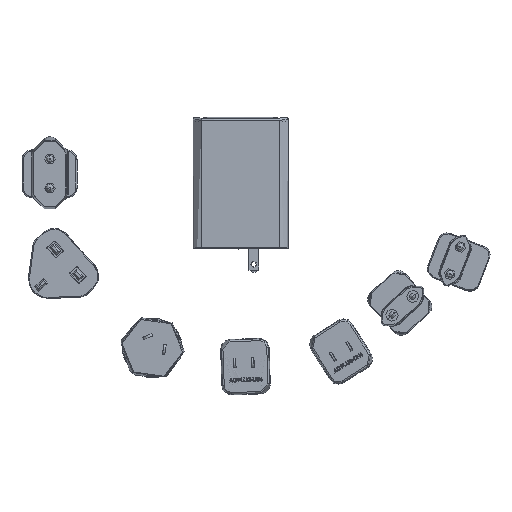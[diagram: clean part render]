
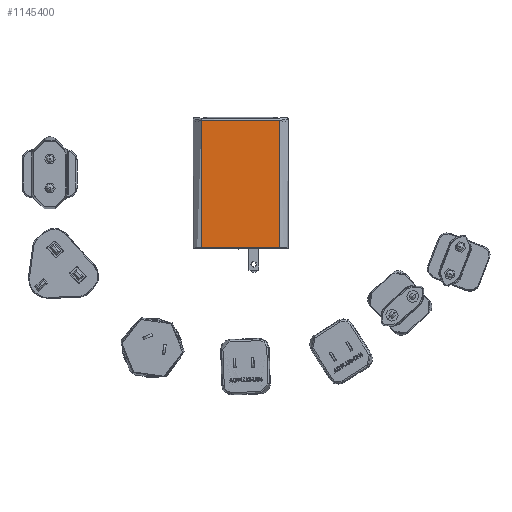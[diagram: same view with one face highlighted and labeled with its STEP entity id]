
A CAD part, top view. The second image highlights one B-rep face of the part: STEP entity #1145400.
In plain terms, the highlighted planar face has unit normal (0, 0, 1).
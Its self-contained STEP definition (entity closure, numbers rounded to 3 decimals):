
#1125800=CARTESIAN_POINT('',(26.285,64.55,21.101));
#1125810=VERTEX_POINT('',#1125800);
#1125990=CARTESIAN_POINT('',(-24.715,64.55,21.101));
#1126000=VERTEX_POINT('',#1125990);
#1126030=CARTESIAN_POINT('',(26.285,64.55,21.101));
#1126040=DIRECTION('',(-1.,0.,0.));
#1126050=VECTOR('',#1126040,1.);
#1126060=LINE('',#1126030,#1126050);
#1126070=EDGE_CURVE('',#1125810,#1126000,#1126060,.T.);
#1126870=CARTESIAN_POINT('',(26.285,147.683,
21.101));
#1126880=DIRECTION('',(0.,-1.,0.));
#1126890=VECTOR('',#1126880,1.);
#1126900=LINE('',#1126870,#1126890);
#1126910=CARTESIAN_POINT('',(26.285,147.683,
21.101));
#1126920=VERTEX_POINT('',#1126910);
#1126930=EDGE_CURVE('',#1126920,#1125810,#1126900,.T.);
#1145050=CARTESIAN_POINT('',(-24.715,147.683,
21.101));
#1145060=DIRECTION('',(1.,0.,0.));
#1145070=VECTOR('',#1145060,1.);
#1145080=LINE('',#1145050,#1145070);
#1145090=CARTESIAN_POINT('',(-24.715,147.683,
21.101));
#1145100=VERTEX_POINT('',#1145090);
#1145110=EDGE_CURVE('',#1145100,#1126920,#1145080,.T.);
#1145240=CARTESIAN_POINT('',(0.785,108.,21.101));
#1145250=DIRECTION('',(0.,0.,-1.));
#1145260=DIRECTION('',(0.,1.,0.));
#1145270=AXIS2_PLACEMENT_3D('',#1145240,#1145250,#1145260);
#1145280=PLANE('',#1145270);
#1145290=CARTESIAN_POINT('',(-24.715,64.55,21.101));
#1145300=DIRECTION('',(0.,1.,0.));
#1145310=VECTOR('',#1145300,1.);
#1145320=LINE('',#1145290,#1145310);
#1145330=EDGE_CURVE('',#1126000,#1145100,#1145320,.T.);
#1145340=ORIENTED_EDGE('',*,*,#1145330,.F.);
#1145350=ORIENTED_EDGE('',*,*,#1145110,.F.);
#1145360=ORIENTED_EDGE('',*,*,#1126930,.F.);
#1145370=ORIENTED_EDGE('',*,*,#1126070,.F.);
#1145380=EDGE_LOOP('',(#1145370,#1145360,#1145350,#1145340));
#1145390=FACE_OUTER_BOUND('',#1145380,.T.);
#1145400=ADVANCED_FACE('',(#1145390),#1145280,.F.);
